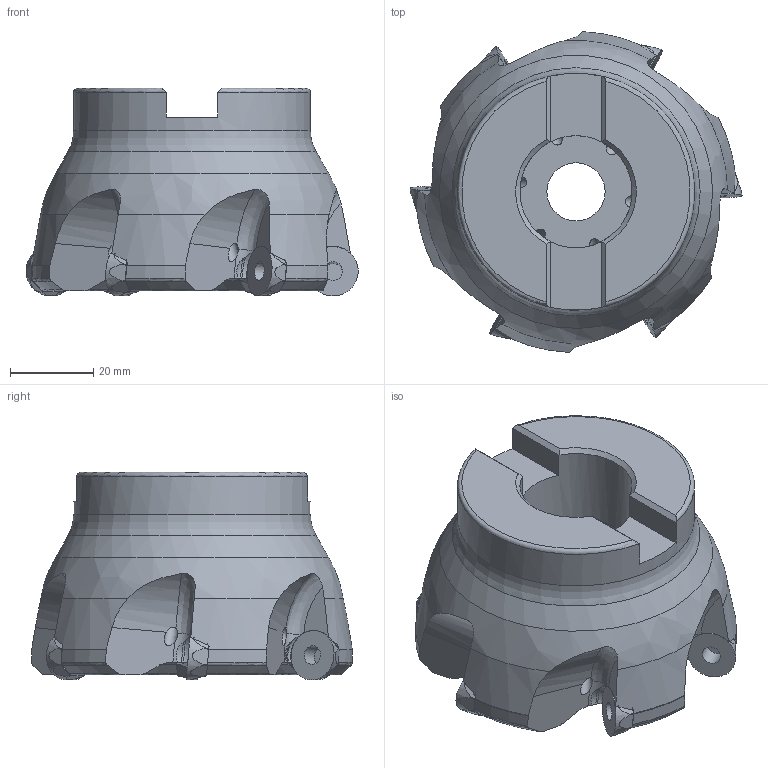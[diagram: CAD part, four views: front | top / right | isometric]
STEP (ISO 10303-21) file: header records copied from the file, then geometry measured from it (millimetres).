
FILE_DESCRIPTION(/* description */ (''),/* implementation_level */ '2;1');
FILE_NAME(/* name */ 'FMRCM4080HRP-6-HAAS_211209.stp',/* time_stamp */ '2021-12-09T15:33:28+09:00',/* author */ (''),/* organization */ (''),/* preprocessor_version */ 'ST-DEVELOPER v16',/* originating_system */ 'SIEMENS PLM Software NX 10.0',/* authorisation */ '');
FILE_SCHEMA (('AUTOMOTIVE_DESIGN { 1 0 10303 214 3 1 1 1 }'));
Length unit declared in the file: millimetre
Products named in the file (1): user583C6A71u36k
Bounding box: 79.84 x 77.12 x 50 mm (x, y, z)
Volume: 121361.8 mm3; surface area: 24757.6 mm2
Topology: 7 solids, 7 shells, 285 faces, 966 edges, 686 vertices
Faces by surface type: plane 101, cylinder 90, torus 52, cone 35, bspline 7
Full cylindrical faces by diameter (mm): 3 x6, 4.5 x6, 14 x1, 25 x1, 27 x1, 28 x1, 35 x1, 57 x1
Entity records: 13811 total; most frequent: CARTESIAN_POINT 4875, ORIENTED_EDGE 1812, DIRECTION 1602, EDGE_CURVE 906, AXIS2_PLACEMENT_3D 707, VERTEX_POINT 656, EDGE_LOOP 332, B_SPLINE_CURVE_WITH_KNOTS 290
